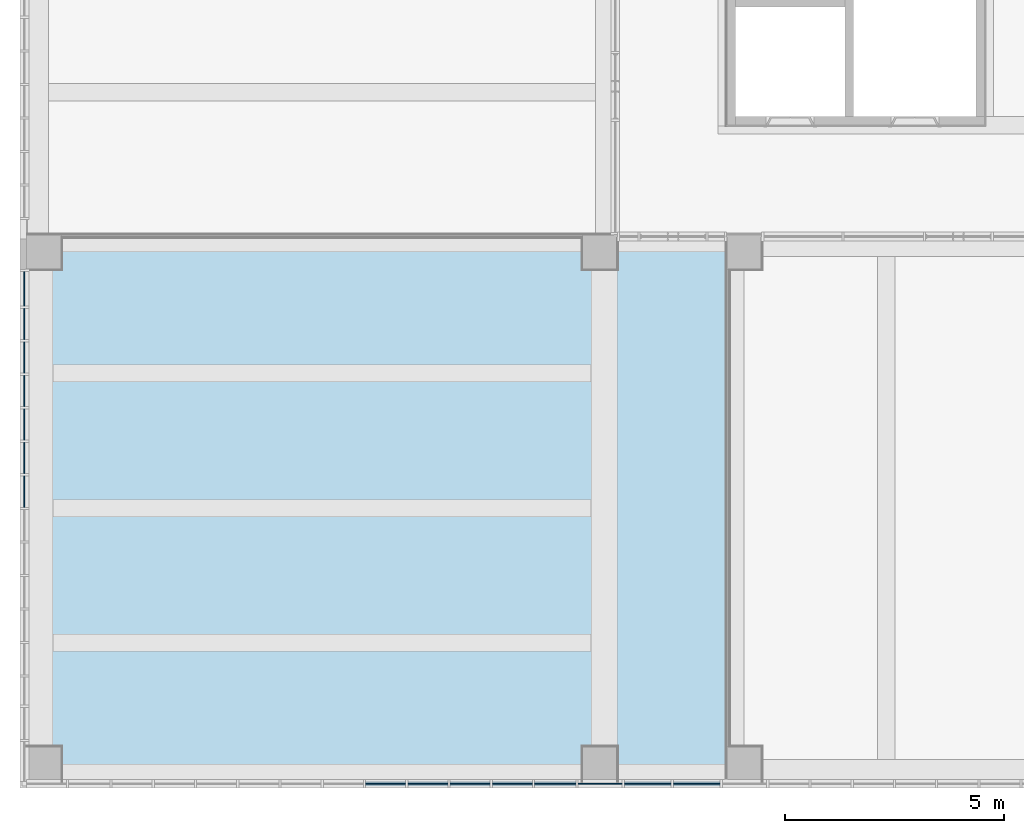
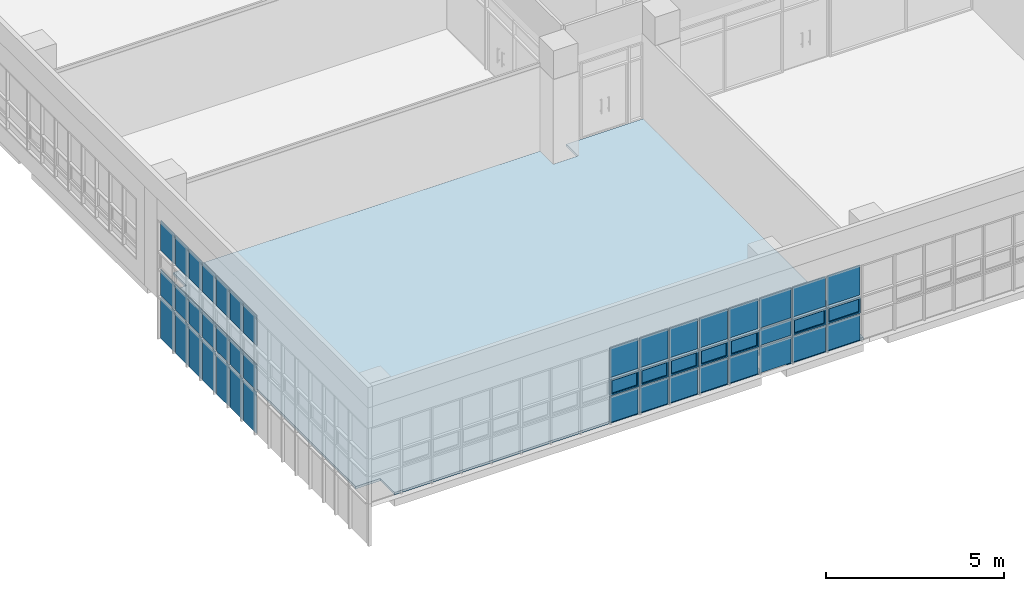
# One storey, part 25 of 81: 45 plates, 1 slab, 2 elements without a shape of their own.
"""IFC2X3 building model written with IfcOpenShell, lengths in millimetres."""

from ifc_helpers import new_model, entity, si_unit, converted_unit, derived_unit, direction, frame, origin, origin_2d_with_axis, place, context, subcontext, project, spatial, polyline, rectangle, outline, extrude, source, transform, mapped, material, material_list, layer, layer_set, layer_usage, type_object, type_shapes, element, aggregate, save


model = new_model("IFC2X3")

# Units and contexts
model_context = context("Model", 3, precision=0.01, world=origin(), true_north=direction((6.123031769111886e-17, 1.0)))
body_context = subcontext(model_context, "Body", "Model", "MODEL_VIEW")
ifc_project = project(units=[si_unit("LENGTHUNIT", "METRE", prefix="MILLI"), si_unit("AREAUNIT", "SQUARE_METRE"), si_unit("VOLUMEUNIT", "CUBIC_METRE"), converted_unit("PLANEANGLEUNIT", "DEGREE", entity("IfcRatioMeasure", 0.017453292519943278), si_unit("PLANEANGLEUNIT", "RADIAN"), dimensions=[0, 0, 0, 0, 0, 0, 0]), si_unit("MASSUNIT", "GRAM", prefix="KILO"), derived_unit("MASSDENSITYUNIT", [(si_unit("MASSUNIT", "GRAM", prefix="KILO"), 1), (si_unit("LENGTHUNIT", "METRE"), -3)]), derived_unit("MOMENTOFINERTIAUNIT", [(si_unit("LENGTHUNIT", "METRE"), 4)]), si_unit("TIMEUNIT", "SECOND"), si_unit("FREQUENCYUNIT", "HERTZ"), si_unit("THERMODYNAMICTEMPERATUREUNIT", "DEGREE_CELSIUS"), derived_unit("THERMALTRANSMITTANCEUNIT", [(si_unit("MASSUNIT", "GRAM", prefix="KILO"), 1), (si_unit("THERMODYNAMICTEMPERATUREUNIT", "KELVIN"), -1), (si_unit("TIMEUNIT", "SECOND"), -3)]), derived_unit("VOLUMETRICFLOWRATEUNIT", [(si_unit("LENGTHUNIT", "METRE"), 3), (si_unit("TIMEUNIT", "SECOND"), -1)]), derived_unit("MASSFLOWRATEUNIT", [(si_unit("MASSUNIT", "GRAM", prefix="KILO"), 1), (si_unit("TIMEUNIT", "SECOND"), -1)]), derived_unit("ROTATIONALFREQUENCYUNIT", [(si_unit("TIMEUNIT", "SECOND"), -1)]), si_unit("ELECTRICCURRENTUNIT", "AMPERE"), si_unit("ELECTRICVOLTAGEUNIT", "VOLT"), si_unit("POWERUNIT", "WATT"), si_unit("FORCEUNIT", "NEWTON", prefix="KILO"), si_unit("ILLUMINANCEUNIT", "LUX"), si_unit("LUMINOUSFLUXUNIT", "LUMEN"), si_unit("LUMINOUSINTENSITYUNIT", "CANDELA"), derived_unit("USERDEFINED", [(si_unit("MASSUNIT", "GRAM", prefix="KILO"), -1), (si_unit("LENGTHUNIT", "METRE"), -2), (si_unit("TIMEUNIT", "SECOND"), 3), (si_unit("LUMINOUSFLUXUNIT", "LUMEN"), 1)]), derived_unit("SOUNDPOWERUNIT", [(si_unit("MASSUNIT", "GRAM", prefix="KILO"), 1), (si_unit("LENGTHUNIT", "METRE"), 2), (si_unit("TIMEUNIT", "SECOND"), -3)]), derived_unit("SOUNDPRESSUREUNIT", [(si_unit("MASSUNIT", "GRAM", prefix="KILO"), 1), (si_unit("LENGTHUNIT", "METRE"), -1), (si_unit("TIMEUNIT", "SECOND"), -2)]), derived_unit("LINEARVELOCITYUNIT", [(si_unit("LENGTHUNIT", "METRE"), 1), (si_unit("TIMEUNIT", "SECOND"), -1)]), si_unit("PRESSUREUNIT", "PASCAL"), derived_unit("USERDEFINED", [(si_unit("LENGTHUNIT", "METRE"), -2), (si_unit("MASSUNIT", "GRAM", prefix="KILO"), 1), (si_unit("TIMEUNIT", "SECOND"), -2)]), derived_unit("LINEARFORCEUNIT", [(si_unit("MASSUNIT", "GRAM", prefix="KILO"), 1), (si_unit("LENGTHUNIT", "METRE"), 1), (si_unit("TIMEUNIT", "SECOND"), -2), (si_unit("LENGTHUNIT", "METRE"), -1)]), derived_unit("PLANARFORCEUNIT", [(si_unit("MASSUNIT", "GRAM", prefix="KILO"), 1), (si_unit("LENGTHUNIT", "METRE"), 1), (si_unit("TIMEUNIT", "SECOND"), -2), (si_unit("LENGTHUNIT", "METRE"), -2)])], contexts=[model_context])

# Site, building, storey
site_placement = place(None, frame((-14167.972527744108, -657.2125860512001, 0.0)))
site = spatial("IfcSite", under=ifc_project, at=site_placement, Name="Default", CompositionType="ELEMENT")
building_placement = place(site_placement, origin())
building = spatial("IfcBuilding", under=site, at=building_placement, Name="Sample Building", CompositionType="ELEMENT")
storey_placement = place(building_placement, frame((0.0, 0.0, 13400.0)))
storey = spatial("IfcBuildingStorey", under=building, at=storey_placement, Name="지상 4층", CompositionType="ELEMENT", Elevation=13400.00000000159)

# Curtain wall, plates
curtain_wall_type = type_object("IfcCurtainWallType", Name="커튼월:CW112-스테인리스 스틸 커튼월", PredefinedType="NOTDEFINED")
curtain_wall_1_placement = place(storey_placement, frame((0.0, 0.0, -13400.0)))
curtain_wall_1 = element("IfcCurtainWall", 1, at=curtain_wall_1_placement, inside=storey, type_object=curtain_wall_type, Name="커튼월:CW112-스테인리스 스틸 커튼월", ObjectType="커튼월:CW112-스테인리스 스틸 커튼월")
ifc_material_1 = material(Name="KBIMS-로이유리(코팅)")
plate_type_1 = type_object("IfcPlateType", Name="CW300-THK24.Low-e coating glass:CW300-THK24.Low-e coating glass", PredefinedType="CURTAIN_PANEL", material=ifc_material_1)
shared_shape_1 = source(origin(), body_context, "Body", "SweptSolid", [
    extrude(rectangle(XDim=786.394878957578, YDim=24.000000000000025, at=origin_2d_with_axis()), frame((0.0, 0.0, 0.0), z_axis=(0.0, 0.0, 1.0), x_axis=(-1.0, 0.0, 0.0)), (0.0, 0.0, 1.0), 1424.9999999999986),
])
type_shapes(plate_type_1, [shared_shape_1])
plate_1_placement = place(curtain_wall_1_placement, frame((14017.955105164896, 11814.015146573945, 12000.0), z_axis=(0.0, 0.0, 1.0), x_axis=(0.0, -1.0, 0.0)))
plate_1 = element("IfcPlate", 2, at=plate_1_placement, type_object=plate_type_1, material=ifc_material_1, Name="CW300-THK24.Low-e coating glass:CW300-THK24.Low-e coating glass", ObjectType="CW300-THK24.Low-e coating glass:CW300-THK24.Low-e coating glass", context=body_context, shape_type="MappedRepresentation", body=[
    mapped(shared_shape_1, transform((0.0, 0.0, 0.0), scale=1.0)),
])
plate_type_2 = type_object("IfcPlateType", Name="CW300-THK24.Low-e coating glass:CW300-THK24.Low-e coating glass", PredefinedType="CURTAIN_PANEL", material=ifc_material_1)
shared_shape_2 = source(origin(), body_context, "Body", "SweptSolid", [
    extrude(rectangle(XDim=716.0000000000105, YDim=24.000000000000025, at=origin_2d_with_axis()), frame((0.0, 0.0, 0.0), z_axis=(0.0, 0.0, 1.0), x_axis=(-1.0, 0.0, 0.0)), (0.0, 0.0, 1.0), 1424.9999999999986),
])
type_shapes(plate_type_2, [shared_shape_2])
plate_2_placement = place(curtain_wall_1_placement, frame((14017.955105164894, 11012.81770709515, 12000.0), z_axis=(0.0, 0.0, 1.0), x_axis=(0.0, -1.0, 0.0)))
plate_2 = element("IfcPlate", 3, at=plate_2_placement, type_object=plate_type_2, material=ifc_material_1, Name="CW300-THK24.Low-e coating glass:CW300-THK24.Low-e coating glass", ObjectType="CW300-THK24.Low-e coating glass:CW300-THK24.Low-e coating glass", context=body_context, shape_type="MappedRepresentation", body=[
    mapped(shared_shape_2, transform((0.0, 0.0, 0.0), scale=1.0)),
])
plate_3_placement = place(curtain_wall_1_placement, frame((14017.955105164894, 10246.817707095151, 12000.0), z_axis=(0.0, 0.0, 1.0), x_axis=(0.0, -1.0, 0.0)))
plate_3 = element("IfcPlate", 4, at=plate_3_placement, type_object=plate_type_2, material=ifc_material_1, Name="CW300-THK24.Low-e coating glass:CW300-THK24.Low-e coating glass", ObjectType="CW300-THK24.Low-e coating glass:CW300-THK24.Low-e coating glass", context=body_context, shape_type="MappedRepresentation", body=[
    mapped(shared_shape_2, transform((0.0, 0.0, 0.0), scale=1.0)),
])
plate_4_placement = place(curtain_wall_1_placement, frame((14017.95510516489, 9480.817707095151, 12000.0), z_axis=(0.0, 0.0, 1.0), x_axis=(0.0, -1.0, 0.0)))
plate_4 = element("IfcPlate", 5, at=plate_4_placement, type_object=plate_type_2, material=ifc_material_1, Name="CW300-THK24.Low-e coating glass:CW300-THK24.Low-e coating glass", ObjectType="CW300-THK24.Low-e coating glass:CW300-THK24.Low-e coating glass", context=body_context, shape_type="MappedRepresentation", body=[
    mapped(shared_shape_2, transform((0.0, 0.0, 0.0), scale=1.0)),
])
plate_5_placement = place(curtain_wall_1_placement, frame((14017.95510516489, 8714.817707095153, 12000.0), z_axis=(0.0, 0.0, 1.0), x_axis=(0.0, -1.0, 0.0)))
plate_5 = element("IfcPlate", 6, at=plate_5_placement, type_object=plate_type_2, material=ifc_material_1, Name="CW300-THK24.Low-e coating glass:CW300-THK24.Low-e coating glass", ObjectType="CW300-THK24.Low-e coating glass:CW300-THK24.Low-e coating glass", context=body_context, shape_type="MappedRepresentation", body=[
    mapped(shared_shape_2, transform((0.0, 0.0, 0.0), scale=1.0)),
])
plate_6_placement = place(curtain_wall_1_placement, frame((14017.955105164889, 7948.817707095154, 12000.0), z_axis=(0.0, 0.0, 1.0), x_axis=(0.0, -1.0, 0.0)))
plate_6 = element("IfcPlate", 7, at=plate_6_placement, type_object=plate_type_2, material=ifc_material_1, Name="CW300-THK24.Low-e coating glass:CW300-THK24.Low-e coating glass", ObjectType="CW300-THK24.Low-e coating glass:CW300-THK24.Low-e coating glass", context=body_context, shape_type="MappedRepresentation", body=[
    mapped(shared_shape_2, transform((0.0, 0.0, 0.0), scale=1.0)),
])
plate_7_placement = place(curtain_wall_1_placement, frame((14017.955105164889, 7182.817707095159, 12000.0), z_axis=(0.0, 0.0, 1.0), x_axis=(0.0, -1.0, 0.0)))
plate_7 = element("IfcPlate", 8, at=plate_7_placement, type_object=plate_type_2, material=ifc_material_1, Name="CW300-THK24.Low-e coating glass:CW300-THK24.Low-e coating glass", ObjectType="CW300-THK24.Low-e coating glass:CW300-THK24.Low-e coating glass", context=body_context, shape_type="MappedRepresentation", body=[
    mapped(shared_shape_2, transform((0.0, 0.0, 0.0), scale=1.0)),
])
plate_type_3 = type_object("IfcPlateType", Name="CW300-THK24.Low-e coating glass:CW300-THK24.Low-e coating glass", PredefinedType="CURTAIN_PANEL", material=ifc_material_1)
shared_shape_3 = source(origin(), body_context, "Body", "SweptSolid", [
    extrude(rectangle(XDim=786.3948789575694, YDim=24.000000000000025, at=origin_2d_with_axis()), frame((0.0, 0.0, 0.0), z_axis=(0.0, 0.0, 1.0), x_axis=(-1.0, 0.0, 0.0)), (0.0, 0.0, 1.0), 899.9999999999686),
])
type_shapes(plate_type_3, [shared_shape_3])
plate_8_placement = place(curtain_wall_1_placement, frame((14017.955105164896, 11814.015146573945, 13475.0), z_axis=(0.0, 0.0, 1.0), x_axis=(0.0, -1.0, 0.0)))
plate_8 = element("IfcPlate", 9, at=plate_8_placement, type_object=plate_type_3, material=ifc_material_1, Name="CW300-THK24.Low-e coating glass:CW300-THK24.Low-e coating glass", ObjectType="CW300-THK24.Low-e coating glass:CW300-THK24.Low-e coating glass", context=body_context, shape_type="MappedRepresentation", body=[
    mapped(shared_shape_3, transform((0.0, 0.0, 0.0), scale=1.0)),
])
plate_type_4 = type_object("IfcPlateType", Name="CW300-THK24.Low-e coating glass:CW300-THK24.Low-e coating glass", PredefinedType="CURTAIN_PANEL", material=ifc_material_1)
shared_shape_4 = source(origin(), body_context, "Body", "SweptSolid", [
    extrude(rectangle(XDim=716.0000000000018, YDim=24.000000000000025, at=origin_2d_with_axis()), frame((0.0, 0.0, 0.0), z_axis=(0.0, 0.0, 1.0), x_axis=(-1.0, 0.0, 0.0)), (0.0, 0.0, 1.0), 899.9999999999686),
])
type_shapes(plate_type_4, [shared_shape_4])
plate_9_placement = place(curtain_wall_1_placement, frame((14017.955105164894, 11012.81770709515, 13475.0), z_axis=(0.0, 0.0, 1.0), x_axis=(0.0, -1.0, 0.0)))
plate_9 = element("IfcPlate", 10, at=plate_9_placement, type_object=plate_type_4, material=ifc_material_1, Name="CW300-THK24.Low-e coating glass:CW300-THK24.Low-e coating glass", ObjectType="CW300-THK24.Low-e coating glass:CW300-THK24.Low-e coating glass", context=body_context, shape_type="MappedRepresentation", body=[
    mapped(shared_shape_4, transform((0.0, 0.0, 0.0), scale=1.0)),
])
plate_10_placement = place(curtain_wall_1_placement, frame((14017.955105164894, 10246.817707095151, 13475.0), z_axis=(0.0, 0.0, 1.0), x_axis=(0.0, -1.0, 0.0)))
plate_10 = element("IfcPlate", 11, at=plate_10_placement, type_object=plate_type_4, material=ifc_material_1, Name="CW300-THK24.Low-e coating glass:CW300-THK24.Low-e coating glass", ObjectType="CW300-THK24.Low-e coating glass:CW300-THK24.Low-e coating glass", context=body_context, shape_type="MappedRepresentation", body=[
    mapped(shared_shape_4, transform((0.0, 0.0, 0.0), scale=1.0)),
])
plate_11_placement = place(curtain_wall_1_placement, frame((14017.95510516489, 9480.817707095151, 13475.0), z_axis=(0.0, 0.0, 1.0), x_axis=(0.0, -1.0, 0.0)))
plate_11 = element("IfcPlate", 12, at=plate_11_placement, type_object=plate_type_4, material=ifc_material_1, Name="CW300-THK24.Low-e coating glass:CW300-THK24.Low-e coating glass", ObjectType="CW300-THK24.Low-e coating glass:CW300-THK24.Low-e coating glass", context=body_context, shape_type="MappedRepresentation", body=[
    mapped(shared_shape_4, transform((0.0, 0.0, 0.0), scale=1.0)),
])
plate_12_placement = place(curtain_wall_1_placement, frame((14017.95510516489, 8714.817707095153, 13475.0), z_axis=(0.0, 0.0, 1.0), x_axis=(0.0, -1.0, 0.0)))
plate_12 = element("IfcPlate", 13, at=plate_12_placement, type_object=plate_type_4, material=ifc_material_1, Name="CW300-THK24.Low-e coating glass:CW300-THK24.Low-e coating glass", ObjectType="CW300-THK24.Low-e coating glass:CW300-THK24.Low-e coating glass", context=body_context, shape_type="MappedRepresentation", body=[
    mapped(shared_shape_4, transform((0.0, 0.0, 0.0), scale=1.0)),
])
plate_13_placement = place(curtain_wall_1_placement, frame((14017.955105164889, 7948.817707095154, 13475.0), z_axis=(0.0, 0.0, 1.0), x_axis=(0.0, -1.0, 0.0)))
plate_13 = element("IfcPlate", 14, at=plate_13_placement, type_object=plate_type_4, material=ifc_material_1, Name="CW300-THK24.Low-e coating glass:CW300-THK24.Low-e coating glass", ObjectType="CW300-THK24.Low-e coating glass:CW300-THK24.Low-e coating glass", context=body_context, shape_type="MappedRepresentation", body=[
    mapped(shared_shape_4, transform((0.0, 0.0, 0.0), scale=1.0)),
])
plate_14_placement = place(curtain_wall_1_placement, frame((14017.955105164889, 7182.817707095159, 13475.0), z_axis=(0.0, 0.0, 1.0), x_axis=(0.0, -1.0, 0.0)))
plate_14 = element("IfcPlate", 15, at=plate_14_placement, type_object=plate_type_4, material=ifc_material_1, Name="CW300-THK24.Low-e coating glass:CW300-THK24.Low-e coating glass", ObjectType="CW300-THK24.Low-e coating glass:CW300-THK24.Low-e coating glass", context=body_context, shape_type="MappedRepresentation", body=[
    mapped(shared_shape_4, transform((0.0, 0.0, 0.0), scale=1.0)),
])
plate_type_5 = type_object("IfcPlateType", Name="CW300-THK24.Low-e coating glass:CW300-THK24.Low-e coating glass", PredefinedType="CURTAIN_PANEL", material=ifc_material_1)
shared_shape_5 = source(origin(), body_context, "Body", "SweptSolid", [
    extrude(rectangle(XDim=786.3948789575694, YDim=24.000000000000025, at=origin_2d_with_axis()), frame((0.0, 0.0, 0.0), z_axis=(0.0, 0.0, 1.0), x_axis=(-1.0, 0.0, 0.0)), (0.0, 0.0, 1.0), 1025.0000000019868),
])
type_shapes(plate_type_5, [shared_shape_5])
plate_15_placement = place(curtain_wall_1_placement, frame((14017.955105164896, 11814.015146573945, 15025.0), z_axis=(0.0, 0.0, 1.0), x_axis=(0.0, -1.0, 0.0)))
plate_15 = element("IfcPlate", 16, at=plate_15_placement, type_object=plate_type_5, material=ifc_material_1, Name="CW300-THK24.Low-e coating glass:CW300-THK24.Low-e coating glass", ObjectType="CW300-THK24.Low-e coating glass:CW300-THK24.Low-e coating glass", context=body_context, shape_type="MappedRepresentation", body=[
    mapped(shared_shape_5, transform((0.0, 0.0, 0.0), scale=1.0)),
])
plate_type_6 = type_object("IfcPlateType", Name="CW300-THK24.Low-e coating glass:CW300-THK24.Low-e coating glass", PredefinedType="CURTAIN_PANEL", material=ifc_material_1)
shared_shape_6 = source(origin(), body_context, "Body", "SweptSolid", [
    extrude(rectangle(XDim=716.0000000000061, YDim=24.000000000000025, at=origin_2d_with_axis()), frame((0.0, 0.0, 0.0), z_axis=(0.0, 0.0, 1.0), x_axis=(-1.0, 0.0, 0.0)), (0.0, 0.0, 1.0), 1025.0000000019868),
])
type_shapes(plate_type_6, [shared_shape_6])
plate_16_placement = place(curtain_wall_1_placement, frame((14017.955105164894, 11012.81770709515, 15025.0), z_axis=(0.0, 0.0, 1.0), x_axis=(0.0, -1.0, 0.0)))
plate_16 = element("IfcPlate", 17, at=plate_16_placement, type_object=plate_type_6, material=ifc_material_1, Name="CW300-THK24.Low-e coating glass:CW300-THK24.Low-e coating glass", ObjectType="CW300-THK24.Low-e coating glass:CW300-THK24.Low-e coating glass", context=body_context, shape_type="MappedRepresentation", body=[
    mapped(shared_shape_6, transform((0.0, 0.0, 0.0), scale=1.0)),
])
plate_17_placement = place(curtain_wall_1_placement, frame((14017.955105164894, 10246.817707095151, 15025.0), z_axis=(0.0, 0.0, 1.0), x_axis=(0.0, -1.0, 0.0)))
plate_17 = element("IfcPlate", 18, at=plate_17_placement, type_object=plate_type_6, material=ifc_material_1, Name="CW300-THK24.Low-e coating glass:CW300-THK24.Low-e coating glass", ObjectType="CW300-THK24.Low-e coating glass:CW300-THK24.Low-e coating glass", context=body_context, shape_type="MappedRepresentation", body=[
    mapped(shared_shape_6, transform((0.0, 0.0, 0.0), scale=1.0)),
])
plate_18_placement = place(curtain_wall_1_placement, frame((14017.95510516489, 9480.817707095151, 15025.0), z_axis=(0.0, 0.0, 1.0), x_axis=(0.0, -1.0, 0.0)))
plate_18 = element("IfcPlate", 19, at=plate_18_placement, type_object=plate_type_6, material=ifc_material_1, Name="CW300-THK24.Low-e coating glass:CW300-THK24.Low-e coating glass", ObjectType="CW300-THK24.Low-e coating glass:CW300-THK24.Low-e coating glass", context=body_context, shape_type="MappedRepresentation", body=[
    mapped(shared_shape_6, transform((0.0, 0.0, 0.0), scale=1.0)),
])
plate_19_placement = place(curtain_wall_1_placement, frame((14017.95510516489, 8714.817707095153, 15025.0), z_axis=(0.0, 0.0, 1.0), x_axis=(0.0, -1.0, 0.0)))
plate_19 = element("IfcPlate", 20, at=plate_19_placement, type_object=plate_type_6, material=ifc_material_1, Name="CW300-THK24.Low-e coating glass:CW300-THK24.Low-e coating glass", ObjectType="CW300-THK24.Low-e coating glass:CW300-THK24.Low-e coating glass", context=body_context, shape_type="MappedRepresentation", body=[
    mapped(shared_shape_6, transform((0.0, 0.0, 0.0), scale=1.0)),
])
plate_20_placement = place(curtain_wall_1_placement, frame((14017.955105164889, 7948.817707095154, 15025.0), z_axis=(0.0, 0.0, 1.0), x_axis=(0.0, -1.0, 0.0)))
plate_20 = element("IfcPlate", 21, at=plate_20_placement, type_object=plate_type_6, material=ifc_material_1, Name="CW300-THK24.Low-e coating glass:CW300-THK24.Low-e coating glass", ObjectType="CW300-THK24.Low-e coating glass:CW300-THK24.Low-e coating glass", context=body_context, shape_type="MappedRepresentation", body=[
    mapped(shared_shape_6, transform((0.0, 0.0, 0.0), scale=1.0)),
])
plate_21_placement = place(curtain_wall_1_placement, frame((14017.955105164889, 7182.817707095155, 15025.0), z_axis=(0.0, 0.0, 1.0), x_axis=(0.0, -1.0, 0.0)))
plate_21 = element("IfcPlate", 22, at=plate_21_placement, type_object=plate_type_6, material=ifc_material_1, Name="CW300-THK24.Low-e coating glass:CW300-THK24.Low-e coating glass", ObjectType="CW300-THK24.Low-e coating glass:CW300-THK24.Low-e coating glass", context=body_context, shape_type="MappedRepresentation", body=[
    mapped(shared_shape_6, transform((0.0, 0.0, 0.0), scale=1.0)),
])
aggregate(curtain_wall_1, [plate_1, plate_2, plate_3, plate_4, plate_5, plate_6, plate_7, plate_8, plate_9, plate_10, plate_11, plate_12, plate_13, plate_14, plate_15, plate_16, plate_17, plate_18, plate_19, plate_20, plate_21])

curtain_wall_2_placement = place(storey_placement, frame((0.0, 0.0, -13400.0)))
curtain_wall_2 = element("IfcCurtainWall", 23, at=curtain_wall_2_placement, inside=storey, type_object=curtain_wall_type, Name="커튼월:CW112-스테인리스 스틸 커튼월", ObjectType="커튼월:CW112-스테인리스 스틸 커튼월")
ifc_material_2 = material(Name="KBIMS-유리")
ifc_material_3 = material(Name="KBIMS-알루미늄")
ifc_material_list_1 = material_list([ifc_material_2, ifc_material_3])
ifc_material_list_2 = material_list([ifc_material_2, ifc_material_3])
plate_type_7 = type_object("IfcPlateType", Name="CW410-프로젝트 창:CW410-프로젝트 창 (하부개폐)", PredefinedType="CURTAIN_PANEL", material=ifc_material_list_2)
shared_shape_7 = source(origin(), body_context, "Body", "SweptSolid", [
    extrude(rectangle(XDim=845.0000000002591, YDim=23.999999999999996, at=origin_2d_with_axis()), frame((0.0, -0.04999999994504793, 50.0), z_axis=(0.0, 0.0, 1.0), x_axis=(-1.0, 0.0, 0.0)), (0.0, 0.0, 1.0), 450.0000000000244),
    extrude(outline(polyline([(-472.4999999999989, -275.0), (472.4999999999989, -275.0), (472.4999999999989, 275.0), (-472.4999999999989, 275.0), (-472.4999999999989, -275.0)]), holes=[polyline([(-422.50000000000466, -225.0), (-422.5000000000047, 225.0), (422.5000000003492, 225.0), (422.50000000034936, -225.0), (-422.50000000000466, -225.0)])]), frame((0.0, -50.04999999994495, 275.0), z_axis=(0.0, 1.0, 0.0), x_axis=(1.0, 0.0, 0.0)), (0.0, 0.0, 1.0), 99.99999999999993),
])
type_shapes(plate_type_7, [shared_shape_7])
plate_22_placement = place(curtain_wall_2_placement, frame((26147.656070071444, 507.2122951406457, 14425.0)))
plate_22 = element("IfcPlate", 24, at=plate_22_placement, type_object=plate_type_7, material=ifc_material_list_1, Name="CW410-프로젝트 창:CW410-프로젝트 창 (하부개폐)", ObjectType="CW410-프로젝트 창:CW410-프로젝트 창 (하부개폐)", context=body_context, shape_type="MappedRepresentation", body=[
    mapped(shared_shape_7, transform((0.0, 0.0, 0.0), scale=1.0)),
])
ifc_material_list_3 = material_list([ifc_material_2, ifc_material_3])
ifc_material_list_4 = material_list([ifc_material_2, ifc_material_3])
plate_type_8 = type_object("IfcPlateType", Name="CW410-프로젝트 창:CW410-프로젝트 창 (하부개폐)", PredefinedType="CURTAIN_PANEL", material=ifc_material_list_4)
shared_shape_8 = source(origin(), body_context, "Body", "SweptSolid", [
    extrude(rectangle(XDim=815.0000000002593, YDim=23.999999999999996, at=origin_2d_with_axis()), frame((0.0, -0.04999999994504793, 50.0), z_axis=(0.0, 0.0, 1.0), x_axis=(-1.0, 0.0, 0.0)), (0.0, 0.0, 1.0), 450.0000000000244),
    extrude(outline(polyline([(-457.4999999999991, -275.0), (457.4999999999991, -275.0), (457.4999999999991, 275.0), (-457.4999999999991, 275.0), (-457.4999999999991, -275.0)]), holes=[polyline([(-407.50000000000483, -225.0), (-407.5000000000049, 225.0), (407.50000000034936, 225.0), (407.50000000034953, -225.0), (-407.50000000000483, -225.0)])]), frame((0.0, -50.04999999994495, 275.0), z_axis=(0.0, 1.0, 0.0), x_axis=(1.0, 0.0, 0.0)), (0.0, 0.0, 1.0), 99.99999999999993),
])
type_shapes(plate_type_8, [shared_shape_8])
plate_23_placement = place(curtain_wall_2_placement, frame((22272.656070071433, 507.2122951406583, 14425.0)))
plate_23 = element("IfcPlate", 25, at=plate_23_placement, type_object=plate_type_8, material=ifc_material_list_3, Name="CW410-프로젝트 창:CW410-프로젝트 창 (하부개폐)", ObjectType="CW410-프로젝트 창:CW410-프로젝트 창 (하부개폐)", context=body_context, shape_type="MappedRepresentation", body=[
    mapped(shared_shape_8, transform((0.0, 0.0, 0.0), scale=1.0)),
])
ifc_material_list_5 = material_list([ifc_material_2, ifc_material_3])
plate_24_placement = place(curtain_wall_2_placement, frame((23237.65607007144, 507.21229514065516, 14425.0)))
plate_24 = element("IfcPlate", 26, at=plate_24_placement, type_object=plate_type_8, material=ifc_material_list_5, Name="CW410-프로젝트 창:CW410-프로젝트 창 (하부개폐)", ObjectType="CW410-프로젝트 창:CW410-프로젝트 창 (하부개폐)", context=body_context, shape_type="MappedRepresentation", body=[
    mapped(shared_shape_8, transform((0.0, 0.0, 0.0), scale=1.0)),
])
ifc_material_list_6 = material_list([ifc_material_2, ifc_material_3])
plate_25_placement = place(curtain_wall_2_placement, frame((24202.656070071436, 507.21229514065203, 14425.0)))
plate_25 = element("IfcPlate", 27, at=plate_25_placement, type_object=plate_type_8, material=ifc_material_list_6, Name="CW410-프로젝트 창:CW410-프로젝트 창 (하부개폐)", ObjectType="CW410-프로젝트 창:CW410-프로젝트 창 (하부개폐)", context=body_context, shape_type="MappedRepresentation", body=[
    mapped(shared_shape_8, transform((0.0, 0.0, 0.0), scale=1.0)),
])
ifc_material_list_7 = material_list([ifc_material_2, ifc_material_3])
plate_26_placement = place(curtain_wall_2_placement, frame((25167.656070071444, 507.2122951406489, 14425.0)))
plate_26 = element("IfcPlate", 28, at=plate_26_placement, type_object=plate_type_8, material=ifc_material_list_7, Name="CW410-프로젝트 창:CW410-프로젝트 창 (하부개폐)", ObjectType="CW410-프로젝트 창:CW410-프로젝트 창 (하부개폐)", context=body_context, shape_type="MappedRepresentation", body=[
    mapped(shared_shape_8, transform((0.0, 0.0, 0.0), scale=1.0)),
])
plate_type_9 = type_object("IfcPlateType", Name="CW300-THK24.Low-e coating glass:CW300-THK24.Low-e coating glass", PredefinedType="CURTAIN_PANEL", material=ifc_material_1)
shared_shape_9 = source(origin(), body_context, "Body", "SweptSolid", [
    extrude(rectangle(XDim=1010.0, YDim=24.000000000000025, at=origin_2d_with_axis()), frame((0.0, 0.0, 0.0), z_axis=(0.0, 0.0, 1.0), x_axis=(-1.0, 0.0, 0.0)), (0.0, 0.0, 1.0), 549.9999999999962),
])
type_shapes(plate_type_9, [shared_shape_9])
plate_27_placement = place(curtain_wall_2_placement, frame((27175.15607007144, 507.2122951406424, 14425.0)))
plate_27 = element("IfcPlate", 29, at=plate_27_placement, type_object=plate_type_9, material=ifc_material_1, Name="CW300-THK24.Low-e coating glass:CW300-THK24.Low-e coating glass", ObjectType="CW300-THK24.Low-e coating glass:CW300-THK24.Low-e coating glass", context=body_context, shape_type="MappedRepresentation", body=[
    mapped(shared_shape_9, transform((0.0, 0.0, 0.0), scale=1.0)),
])
ifc_material_list_8 = material_list([ifc_material_2, ifc_material_3])
ifc_material_list_9 = material_list([ifc_material_2, ifc_material_3])
plate_type_10 = type_object("IfcPlateType", Name="CW410-프로젝트 창:CW410-프로젝트 창 (하부개폐)", PredefinedType="CURTAIN_PANEL", material=ifc_material_list_9)
shared_shape_10 = source(origin(), body_context, "Body", "SweptSolid", [
    extrude(rectangle(XDim=970.0000000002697, YDim=23.999999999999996, at=origin_2d_with_axis()), frame((0.0, -0.04999999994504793, 50.0), z_axis=(0.0, 0.0, 1.0), x_axis=(-1.0, 0.0, 0.0)), (0.0, 0.0, 1.0), 450.0000000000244),
    extrude(outline(polyline([(-535.0, -275.0), (535.0, -275.0), (535.0, 275.0), (-535.0, 275.0), (-535.0, -275.0)]), holes=[polyline([(-485.0, -225.0), (-485.0, 225.0), (485.0, 225.0), (485.0, -225.0), (-485.0, -225.0)])]), frame((0.0, -50.04999999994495, 275.0), z_axis=(0.0, 1.0, 0.0), x_axis=(1.0, 0.0, 0.0)), (0.0, 0.0, 1.0), 99.99999999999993),
])
type_shapes(plate_type_10, [shared_shape_10])
plate_28_placement = place(curtain_wall_2_placement, frame((28265.15607007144, 507.2122951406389, 14425.0)))
plate_28 = element("IfcPlate", 30, at=plate_28_placement, type_object=plate_type_10, material=ifc_material_list_8, Name="CW410-프로젝트 창:CW410-프로젝트 창 (하부개폐)", ObjectType="CW410-프로젝트 창:CW410-프로젝트 창 (하부개폐)", context=body_context, shape_type="MappedRepresentation", body=[
    mapped(shared_shape_10, transform((0.0, 0.0, 0.0), scale=1.0)),
])
ifc_material_list_10 = material_list([ifc_material_2, ifc_material_3])
plate_29_placement = place(curtain_wall_2_placement, frame((29385.156070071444, 507.2122951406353, 14425.0)))
plate_29 = element("IfcPlate", 31, at=plate_29_placement, type_object=plate_type_10, material=ifc_material_list_10, Name="CW410-프로젝트 창:CW410-프로젝트 창 (하부개폐)", ObjectType="CW410-프로젝트 창:CW410-프로젝트 창 (하부개폐)", context=body_context, shape_type="MappedRepresentation", body=[
    mapped(shared_shape_10, transform((0.0, 0.0, 0.0), scale=1.0)),
])
plate_type_11 = type_object("IfcPlateType", Name="CW300-THK24.Low-e coating glass:CW300-THK24.Low-e coating glass", PredefinedType="CURTAIN_PANEL", material=ifc_material_1)
shared_shape_11 = source(origin(), body_context, "Body", "SweptSolid", [
    extrude(rectangle(XDim=944.9999999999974, YDim=24.000000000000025, at=origin_2d_with_axis()), frame((0.0, 0.0, 0.0), z_axis=(0.0, 0.0, 1.0), x_axis=(-1.0, 0.0, 0.0)), (0.0, 0.0, 1.0), 894.9999999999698),
])
type_shapes(plate_type_11, [shared_shape_11])
plate_30_placement = place(curtain_wall_2_placement, frame((26147.65607007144, 507.2122951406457, 13480.0)))
plate_30 = element("IfcPlate", 32, at=plate_30_placement, type_object=plate_type_11, material=ifc_material_1, Name="CW300-THK24.Low-e coating glass:CW300-THK24.Low-e coating glass", ObjectType="CW300-THK24.Low-e coating glass:CW300-THK24.Low-e coating glass", context=body_context, shape_type="MappedRepresentation", body=[
    mapped(shared_shape_11, transform((0.0, 0.0, 0.0), scale=1.0)),
])
plate_type_12 = type_object("IfcPlateType", Name="CW300-THK24.Low-e coating glass:CW300-THK24.Low-e coating glass", PredefinedType="CURTAIN_PANEL", material=ifc_material_1)
shared_shape_12 = source(origin(), body_context, "Body", "SweptSolid", [
    extrude(rectangle(XDim=914.9999999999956, YDim=24.000000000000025, at=origin_2d_with_axis()), frame((0.0, 0.0, 0.0), z_axis=(0.0, 0.0, 1.0), x_axis=(-1.0, 0.0, 0.0)), (0.0, 0.0, 1.0), 894.9999999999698),
])
type_shapes(plate_type_12, [shared_shape_12])
plate_31_placement = place(curtain_wall_2_placement, frame((22272.656070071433, 507.2122951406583, 13480.0)))
plate_31 = element("IfcPlate", 33, at=plate_31_placement, type_object=plate_type_12, material=ifc_material_1, Name="CW300-THK24.Low-e coating glass:CW300-THK24.Low-e coating glass", ObjectType="CW300-THK24.Low-e coating glass:CW300-THK24.Low-e coating glass", context=body_context, shape_type="MappedRepresentation", body=[
    mapped(shared_shape_12, transform((0.0, 0.0, 0.0), scale=1.0)),
])
plate_32_placement = place(curtain_wall_2_placement, frame((23237.65607007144, 507.21229514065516, 13480.0)))
plate_32 = element("IfcPlate", 34, at=plate_32_placement, type_object=plate_type_12, material=ifc_material_1, Name="CW300-THK24.Low-e coating glass:CW300-THK24.Low-e coating glass", ObjectType="CW300-THK24.Low-e coating glass:CW300-THK24.Low-e coating glass", context=body_context, shape_type="MappedRepresentation", body=[
    mapped(shared_shape_12, transform((0.0, 0.0, 0.0), scale=1.0)),
])
plate_33_placement = place(curtain_wall_2_placement, frame((24202.656070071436, 507.21229514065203, 13480.0)))
plate_33 = element("IfcPlate", 35, at=plate_33_placement, type_object=plate_type_12, material=ifc_material_1, Name="CW300-THK24.Low-e coating glass:CW300-THK24.Low-e coating glass", ObjectType="CW300-THK24.Low-e coating glass:CW300-THK24.Low-e coating glass", context=body_context, shape_type="MappedRepresentation", body=[
    mapped(shared_shape_12, transform((0.0, 0.0, 0.0), scale=1.0)),
])
plate_34_placement = place(curtain_wall_2_placement, frame((25167.656070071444, 507.2122951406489, 13480.0)))
plate_34 = element("IfcPlate", 36, at=plate_34_placement, type_object=plate_type_12, material=ifc_material_1, Name="CW300-THK24.Low-e coating glass:CW300-THK24.Low-e coating glass", ObjectType="CW300-THK24.Low-e coating glass:CW300-THK24.Low-e coating glass", context=body_context, shape_type="MappedRepresentation", body=[
    mapped(shared_shape_12, transform((0.0, 0.0, 0.0), scale=1.0)),
])
plate_type_13 = type_object("IfcPlateType", Name="CW300-THK24.Low-e coating glass:CW300-THK24.Low-e coating glass", PredefinedType="CURTAIN_PANEL", material=ifc_material_1)
shared_shape_13 = source(origin(), body_context, "Body", "SweptSolid", [
    extrude(rectangle(XDim=1009.9999999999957, YDim=24.000000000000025, at=origin_2d_with_axis()), frame((0.0, 0.0, 0.0), z_axis=(0.0, 0.0, 1.0), x_axis=(-1.0, 0.0, 0.0)), (0.0, 0.0, 1.0), 894.9999999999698),
])
type_shapes(plate_type_13, [shared_shape_13])
plate_35_placement = place(curtain_wall_2_placement, frame((27175.156070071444, 507.2122951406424, 13480.0)))
plate_35 = element("IfcPlate", 37, at=plate_35_placement, type_object=plate_type_13, material=ifc_material_1, Name="CW300-THK24.Low-e coating glass:CW300-THK24.Low-e coating glass", ObjectType="CW300-THK24.Low-e coating glass:CW300-THK24.Low-e coating glass", context=body_context, shape_type="MappedRepresentation", body=[
    mapped(shared_shape_13, transform((0.0, 0.0, 0.0), scale=1.0)),
])
plate_type_14 = type_object("IfcPlateType", Name="CW300-THK24.Low-e coating glass:CW300-THK24.Low-e coating glass", PredefinedType="CURTAIN_PANEL", material=ifc_material_1)
shared_shape_14 = source(origin(), body_context, "Body", "SweptSolid", [
    extrude(rectangle(XDim=1070.0000000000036, YDim=24.000000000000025, at=origin_2d_with_axis()), frame((0.0, 0.0, 0.0), z_axis=(0.0, 0.0, 1.0), x_axis=(-1.0, 0.0, 0.0)), (0.0, 0.0, 1.0), 894.9999999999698),
])
type_shapes(plate_type_14, [shared_shape_14])
plate_36_placement = place(curtain_wall_2_placement, frame((28265.15607007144, 507.2122951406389, 13480.0)))
plate_36 = element("IfcPlate", 38, at=plate_36_placement, type_object=plate_type_14, material=ifc_material_1, Name="CW300-THK24.Low-e coating glass:CW300-THK24.Low-e coating glass", ObjectType="CW300-THK24.Low-e coating glass:CW300-THK24.Low-e coating glass", context=body_context, shape_type="MappedRepresentation", body=[
    mapped(shared_shape_14, transform((0.0, 0.0, 0.0), scale=1.0)),
])
plate_37_placement = place(curtain_wall_2_placement, frame((29385.156070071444, 507.2122951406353, 13480.0)))
plate_37 = element("IfcPlate", 39, at=plate_37_placement, type_object=plate_type_14, material=ifc_material_1, Name="CW300-THK24.Low-e coating glass:CW300-THK24.Low-e coating glass", ObjectType="CW300-THK24.Low-e coating glass:CW300-THK24.Low-e coating glass", context=body_context, shape_type="MappedRepresentation", body=[
    mapped(shared_shape_14, transform((0.0, 0.0, 0.0), scale=1.0)),
])
plate_type_15 = type_object("IfcPlateType", Name="CW300-THK24.Low-e coating glass:CW300-THK24.Low-e coating glass", PredefinedType="CURTAIN_PANEL", material=ifc_material_1)
shared_shape_15 = source(origin(), body_context, "Body", "SweptSolid", [
    extrude(rectangle(XDim=945.0000000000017, YDim=24.000000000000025, at=origin_2d_with_axis()), frame((0.0, 0.0, 0.0), z_axis=(0.0, 0.0, 1.0), x_axis=(-1.0, 0.0, 0.0)), (0.0, 0.0, 1.0), 1025.0000000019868),
])
type_shapes(plate_type_15, [shared_shape_15])
plate_38_placement = place(curtain_wall_2_placement, frame((26147.65607007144, 507.2122951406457, 15025.0)))
plate_38 = element("IfcPlate", 40, at=plate_38_placement, type_object=plate_type_15, material=ifc_material_1, Name="CW300-THK24.Low-e coating glass:CW300-THK24.Low-e coating glass", ObjectType="CW300-THK24.Low-e coating glass:CW300-THK24.Low-e coating glass", context=body_context, shape_type="MappedRepresentation", body=[
    mapped(shared_shape_15, transform((0.0, 0.0, 0.0), scale=1.0)),
])
plate_type_16 = type_object("IfcPlateType", Name="CW300-THK24.Low-e coating glass:CW300-THK24.Low-e coating glass", PredefinedType="CURTAIN_PANEL", material=ifc_material_1)
shared_shape_16 = source(origin(), body_context, "Body", "SweptSolid", [
    extrude(rectangle(XDim=914.9999999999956, YDim=24.000000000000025, at=origin_2d_with_axis()), frame((0.0, 0.0, 0.0), z_axis=(0.0, 0.0, 1.0), x_axis=(-1.0, 0.0, 0.0)), (0.0, 0.0, 1.0), 1025.0000000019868),
])
type_shapes(plate_type_16, [shared_shape_16])
plate_39_placement = place(curtain_wall_2_placement, frame((22272.656070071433, 507.2122951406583, 15025.0)))
plate_39 = element("IfcPlate", 41, at=plate_39_placement, type_object=plate_type_16, material=ifc_material_1, Name="CW300-THK24.Low-e coating glass:CW300-THK24.Low-e coating glass", ObjectType="CW300-THK24.Low-e coating glass:CW300-THK24.Low-e coating glass", context=body_context, shape_type="MappedRepresentation", body=[
    mapped(shared_shape_16, transform((0.0, 0.0, 0.0), scale=1.0)),
])
plate_40_placement = place(curtain_wall_2_placement, frame((23237.65607007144, 507.21229514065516, 15025.0)))
plate_40 = element("IfcPlate", 42, at=plate_40_placement, type_object=plate_type_16, material=ifc_material_1, Name="CW300-THK24.Low-e coating glass:CW300-THK24.Low-e coating glass", ObjectType="CW300-THK24.Low-e coating glass:CW300-THK24.Low-e coating glass", context=body_context, shape_type="MappedRepresentation", body=[
    mapped(shared_shape_16, transform((0.0, 0.0, 0.0), scale=1.0)),
])
plate_41_placement = place(curtain_wall_2_placement, frame((24202.656070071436, 507.21229514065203, 15025.0)))
plate_41 = element("IfcPlate", 43, at=plate_41_placement, type_object=plate_type_16, material=ifc_material_1, Name="CW300-THK24.Low-e coating glass:CW300-THK24.Low-e coating glass", ObjectType="CW300-THK24.Low-e coating glass:CW300-THK24.Low-e coating glass", context=body_context, shape_type="MappedRepresentation", body=[
    mapped(shared_shape_16, transform((0.0, 0.0, 0.0), scale=1.0)),
])
plate_42_placement = place(curtain_wall_2_placement, frame((25167.656070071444, 507.2122951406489, 15025.0)))
plate_42 = element("IfcPlate", 44, at=plate_42_placement, type_object=plate_type_16, material=ifc_material_1, Name="CW300-THK24.Low-e coating glass:CW300-THK24.Low-e coating glass", ObjectType="CW300-THK24.Low-e coating glass:CW300-THK24.Low-e coating glass", context=body_context, shape_type="MappedRepresentation", body=[
    mapped(shared_shape_16, transform((0.0, 0.0, 0.0), scale=1.0)),
])
plate_type_17 = type_object("IfcPlateType", Name="CW300-THK24.Low-e coating glass:CW300-THK24.Low-e coating glass", PredefinedType="CURTAIN_PANEL", material=ifc_material_1)
shared_shape_17 = source(origin(), body_context, "Body", "SweptSolid", [
    extrude(rectangle(XDim=1010.0000000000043, YDim=24.000000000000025, at=origin_2d_with_axis()), frame((0.0, 0.0, 0.0), z_axis=(0.0, 0.0, 1.0), x_axis=(-1.0, 0.0, 0.0)), (0.0, 0.0, 1.0), 1025.0000000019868),
])
type_shapes(plate_type_17, [shared_shape_17])
plate_43_placement = place(curtain_wall_2_placement, frame((27175.15607007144, 507.2122951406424, 15025.0)))
plate_43 = element("IfcPlate", 45, at=plate_43_placement, type_object=plate_type_17, material=ifc_material_1, Name="CW300-THK24.Low-e coating glass:CW300-THK24.Low-e coating glass", ObjectType="CW300-THK24.Low-e coating glass:CW300-THK24.Low-e coating glass", context=body_context, shape_type="MappedRepresentation", body=[
    mapped(shared_shape_17, transform((0.0, 0.0, 0.0), scale=1.0)),
])
plate_type_18 = type_object("IfcPlateType", Name="CW300-THK24.Low-e coating glass:CW300-THK24.Low-e coating glass", PredefinedType="CURTAIN_PANEL", material=ifc_material_1)
shared_shape_18 = source(origin(), body_context, "Body", "SweptSolid", [
    extrude(rectangle(XDim=1070.0000000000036, YDim=24.000000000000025, at=origin_2d_with_axis()), frame((0.0, 0.0, 0.0), z_axis=(0.0, 0.0, 1.0), x_axis=(-1.0, 0.0, 0.0)), (0.0, 0.0, 1.0), 1025.0000000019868),
])
type_shapes(plate_type_18, [shared_shape_18])
plate_44_placement = place(curtain_wall_2_placement, frame((28265.15607007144, 507.2122951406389, 15025.0)))
plate_44 = element("IfcPlate", 46, at=plate_44_placement, type_object=plate_type_18, material=ifc_material_1, Name="CW300-THK24.Low-e coating glass:CW300-THK24.Low-e coating glass", ObjectType="CW300-THK24.Low-e coating glass:CW300-THK24.Low-e coating glass", context=body_context, shape_type="MappedRepresentation", body=[
    mapped(shared_shape_18, transform((0.0, 0.0, 0.0), scale=1.0)),
])
plate_45_placement = place(curtain_wall_2_placement, frame((29385.156070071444, 507.2122951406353, 15025.0)))
plate_45 = element("IfcPlate", 47, at=plate_45_placement, type_object=plate_type_18, material=ifc_material_1, Name="CW300-THK24.Low-e coating glass:CW300-THK24.Low-e coating glass", ObjectType="CW300-THK24.Low-e coating glass:CW300-THK24.Low-e coating glass", context=body_context, shape_type="MappedRepresentation", body=[
    mapped(shared_shape_18, transform((0.0, 0.0, 0.0), scale=1.0)),
])
aggregate(curtain_wall_2, [plate_31, plate_32, plate_33, plate_34, plate_30, plate_35, plate_36, plate_37, plate_23, plate_24, plate_25, plate_26, plate_22, plate_27, plate_28, plate_29, plate_39, plate_40, plate_41, plate_42, plate_38, plate_43, plate_44, plate_45])

# Slab
ifc_material_4 = material(Name="SL341-테라조 바닥 (바탕48mm, 마감32mm)")
ifc_layer = layer(ifc_material_4, 80.0)
ifc_layer_set = layer_set([ifc_layer], Name="바닥:A1-14-06B-테라조타일 (80mm)")
ifc_layer_usage = layer_usage(ifc_layer_set, "AXIS3", "POSITIVE", 0.0)
slab_type = type_object("IfcSlabType", Name="바닥:A1-14-06B-테라조타일 (80mm)", PredefinedType="FLOOR", material=ifc_layer_set)
slab_placement = place(storey_placement, origin())
element("IfcSlab", 48, at=slab_placement, inside=storey, type_object=slab_type, material=ifc_layer_usage, Name="바닥:A1-14-06B-테라조타일 (80mm)", ObjectType="바닥:A1-14-06B-테라조타일 (80mm)", PredefinedType="FLOOR", context=body_context, shape_type="SweptSolid", body=[
    extrude(outline(polyline([(-5424.687737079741, -8749.997850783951), (5475.312684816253, -8749.997850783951), (5475.31268481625, -7950.015200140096), (6212.812275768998, -7950.0152001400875), (6212.8122757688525, 3950.002185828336), (5475.3126848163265, 3950.0021858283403), (5475.3126848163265, 4750.002185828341), (6135.312684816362, 4750.002185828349), (6135.312684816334, 7250.002158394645), (-6224.687428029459, 7250.00215839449), (-6224.687428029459, 4750.002185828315), (-5424.687737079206, 4750.00218582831), (-5424.687737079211, 3950.00218582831), (-6224.687428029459, 3950.002185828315), (-6224.68742802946, -7949.997850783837), (-5424.687737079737, -7949.997850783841), (-5424.687737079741, -8749.997850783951)])), frame((22817.97030530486, 6781.899623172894, 80.0), z_axis=(0.0, 0.0, -1.0), x_axis=(0.0, 1.0, 0.0)), (0.0, 0.0, 1.0), 79.99999999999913),
])

save(model, "model.ifc")
